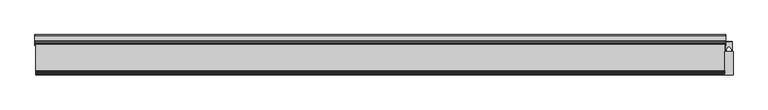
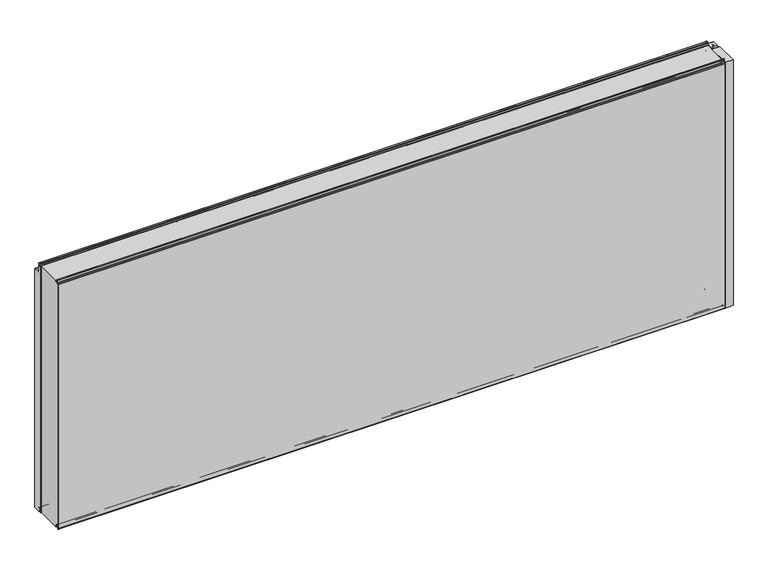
"""IFC4 building model written with IfcOpenShell, lengths in millimetres: plate geometry, Fronttop : Fronttop 150/1000."""

from ifc_helpers import new_model, si_unit, point, frame, frame_2d, origin, origin_with_axes, place, context, project, spatial, polyline, circle_curve, trimmed, segment, composite_curve, outline, extrude, source, transform, mapped, element, save
from ifc_brep_helpers import plane_surface, cylinder_surface, revolved_surface, advanced_brep


def plate_74780102(model_context):
    return source(origin(), model_context, "Body", "SolidModel", [
        advanced_brep(
        [(-1286.5, 124.0, 1008.0), (-1286.5, 121.0, 1008.0), (-1286.5, 121.0, 1004.0), (-1286.5, 117.0, 1000.0), (-1286.5, 115.0, 1000.0), (-1286.5, 115.0, 1001.0), (-1286.5, 117.0, 1001.0), (-1286.5, 120.0, 1004.0), (-1286.5, 120.0, 1008.0), (-1286.5, 125.0, 1008.0), (-1286.5, 125.0, 1000.0), (-1286.5, 124.0, 1000.0), (1286.5, 125.0, 1008.0), (1286.5, 120.0, 1008.0), (1286.5, 120.0, 1004.0), (1286.5, 117.0, 1001.0), (1286.5, 115.0, 1001.0), (1286.5, 115.0, 1000.0), (1286.5, 117.0, 1000.0), (1286.5, 121.0, 1004.0), (1286.5, 121.0, 1008.0), (1286.5, 124.0, 1008.0), (1286.5, 124.0, 1000.0), (1286.5, 125.0, 1000.0), (-1286.5, 117.0, 2.0), (1286.5, 117.0, 2.0), (1286.5, 115.0, 2.0), (-1286.5, 115.0, 2.0), (-1286.5, 119.0, 4.0), (1286.5, 119.0, 4.0), (-1286.5, 119.0, 8.0), (1286.5, 119.0, 8.0), (-1286.5, 126.0, 8.0), (1286.5, 126.0, 8.0), (-1286.5, 126.0, 0.0), (1286.5, 126.0, 0.0), (-1286.5, 129.0, -3.0), (1286.5, 129.0, -3.0), (-1286.5, 125.0, -3.0), (-1287.5, 125.0, -3.0), (-1287.5, 147.0, -3.0), (-1286.5, 147.0, -3.0), (1286.5, 147.0, -3.0), (1287.5, 147.0, -3.0), (1287.5, 125.0, -3.0), (1286.5, 125.0, -3.0), (-1286.5, 150.0, 0.0), (1286.5, 150.0, 0.0), (-1287.5, 150.0, 0.0), (-1287.5, 150.0, 969.0), (-1286.5, 150.0, 969.0), (1286.5, 150.0, 969.0), (1287.5, 150.0, 969.0), (1287.5, 150.0, 0.0), (-1286.5, 147.0, 972.0), (1286.5, 147.0, 972.0), (-1287.5, 147.0, 972.0), (-1287.5, 128.0, 972.0), (-1286.5, 128.0, 972.0), (1286.5, 128.0, 972.0), (1287.5, 128.0, 972.0), (1287.5, 147.0, 972.0), (-1286.5, 125.0, 975.0), (1286.5, 125.0, 975.0), (-1287.5, 125.0, 975.0), (-1287.5, 125.0, 1000.0), (1287.5, 125.0, 1000.0), (1287.5, 125.0, 975.0), (-1286.5, 124.0, 975.0), (1286.5, 124.0, 975.0), (-1286.5, 128.0, 971.0), (1286.5, 128.0, 971.0), (-1286.5, 147.0, 971.0), (1286.5, 147.0, 971.0), (-1286.5, 149.0, 969.0), (1286.5, 149.0, 969.0), (-1286.5, 149.0, 0.0), (1286.5, 149.0, 0.0), (-1286.5, 147.0, -2.0), (1286.5, 147.0, -2.0), (-1286.5, 129.0, -2.0), (1286.5, 129.0, -2.0), (-1286.5, 127.0, 0.0), (1286.5, 127.0, 0.0), (-1286.5, 127.0, 8.0), (1286.5, 127.0, 8.0), (-1286.5, 118.0, 8.0), (1286.5, 118.0, 8.0), (-1286.5, 118.0, 4.0), (1286.5, 118.0, 4.0), (-1286.5, 117.0, 3.0), (1286.5, 117.0, 3.0), (-1286.5, 115.0, 3.0), (1286.5, 115.0, 3.0), (1287.5, 110.0, 1000.0), (1287.5, 110.0, 0.0), (1287.5, 125.0, 0.0), (1286.5, 125.0, 0.0), (1286.5, 110.0, 0.0), (1286.5, 110.0, 1000.0), (-1287.5, 125.0, 0.0), (-1287.5, 110.0, 0.0), (-1287.5, 110.0, 1000.0), (-1286.5, 110.0, 1000.0), (-1286.5, 110.0, 0.0), (-1286.5, 125.0, 0.0)],
        [
            (0, 1, circle_curve(frame((-1286.5, 122.5, 1008.0), z_axis=(1.0, 0.0, 0.0), x_axis=(0.0, -1.0, 0.0)), 1.5)),
            (1, 2),
            (2, 3, circle_curve(frame((-1286.5, 117.0, 1004.0), z_axis=(-1.0, 0.0, 0.0), x_axis=(0.0, -1.0, 0.0)), 4.0)),
            (3, 4),
            (4, 5),
            (5, 6),
            (6, 7, circle_curve(frame((-1286.5, 117.0, 1004.0), z_axis=(1.0, 0.0, 0.0), x_axis=(0.0, -1.0, 0.0)), 3.0)),
            (7, 8),
            (8, 9, circle_curve(frame((-1286.5, 122.5, 1008.0), z_axis=(-1.0, 0.0, 0.0), x_axis=(0.0, -1.0, 0.0)), 2.5)),
            (9, 10),
            (10, 11),
            (11, 0),
            (12, 13, circle_curve(frame((1286.5, 122.5, 1008.0), z_axis=(1.0, 0.0, 0.0), x_axis=(0.0, -1.0, 0.0)), 2.5)),
            (13, 14),
            (14, 15, circle_curve(frame((1286.5, 117.0, 1004.0), z_axis=(-1.0, 0.0, 0.0), x_axis=(0.0, -1.0, 0.0)), 3.0)),
            (15, 16),
            (16, 17),
            (17, 18),
            (18, 19, circle_curve(frame((1286.5, 117.0, 1004.0), z_axis=(1.0, 0.0, 0.0), x_axis=(0.0, -1.0, 0.0)), 4.0)),
            (19, 20),
            (20, 21, circle_curve(frame((1286.5, 122.5, 1008.0), z_axis=(-1.0, 0.0, 0.0), x_axis=(0.0, -1.0, 0.0)), 1.5)),
            (21, 22),
            (22, 23),
            (23, 12),
            (24, 25),
            (25, 26),
            (26, 27),
            (27, 24),
            (24, 28, circle_curve(frame((-1286.5, 117.0, 4.0), z_axis=(1.0, 0.0, 0.0), x_axis=(0.0, -1.0, 0.0)), 2.0)),
            (28, 29),
            (29, 25, circle_curve(frame((1286.5, 117.0, 4.0), z_axis=(-1.0, 0.0, 0.0), x_axis=(0.0, -1.0, 0.0)), 2.0)),
            (28, 30),
            (30, 31),
            (31, 29),
            (30, 32, circle_curve(frame((-1286.5, 122.5, 8.0), z_axis=(-1.0, 0.0, 0.0), x_axis=(0.0, -1.0, 0.0)), 3.5)),
            (32, 33),
            (33, 31, circle_curve(frame((1286.5, 122.5, 8.0), z_axis=(1.0, 0.0, 0.0), x_axis=(0.0, -1.0, 0.0)), 3.5)),
            (32, 34),
            (34, 35),
            (35, 33),
            (34, 36, circle_curve(frame((-1286.5, 129.0, 0.0), z_axis=(1.0, 0.0, 0.0), x_axis=(0.0, -1.0, 0.0)), 3.0)),
            (36, 37),
            (37, 35, circle_curve(frame((1286.5, 129.0, 0.0), z_axis=(-1.0, 0.0, 0.0), x_axis=(0.0, -1.0, 0.0)), 3.0)),
            (36, 38),
            (38, 39),
            (39, 40),
            (40, 41),
            (41, 42),
            (42, 43),
            (43, 44),
            (44, 45),
            (45, 37),
            (41, 46, circle_curve(frame((-1286.5, 147.0, 0.0), z_axis=(1.0, 0.0, 0.0), x_axis=(0.0, -1.0, 0.0)), 3.0)),
            (46, 47),
            (47, 42, circle_curve(frame((1286.5, 147.0, 0.0), z_axis=(-1.0, 0.0, 0.0), x_axis=(0.0, -1.0, 0.0)), 3.0)),
            (46, 48),
            (48, 49),
            (49, 50),
            (50, 51),
            (51, 52),
            (52, 53),
            (53, 47),
            (50, 54, circle_curve(frame((-1286.5, 147.0, 969.0), z_axis=(1.0, 0.0, 0.0), x_axis=(0.0, -1.0, 0.0)), 3.0)),
            (54, 55),
            (55, 51, circle_curve(frame((1286.5, 147.0, 969.0), z_axis=(-1.0, 0.0, 0.0), x_axis=(0.0, -1.0, 0.0)), 3.0)),
            (54, 56),
            (56, 57),
            (57, 58),
            (58, 59),
            (59, 60),
            (60, 61),
            (61, 55),
            (58, 62, circle_curve(frame((-1286.5, 128.0, 975.0), z_axis=(-1.0, 0.0, 0.0), x_axis=(0.0, -1.0, 0.0)), 3.0)),
            (62, 63),
            (63, 59, circle_curve(frame((1286.5, 128.0, 975.0), z_axis=(1.0, 0.0, 0.0), x_axis=(0.0, -1.0, 0.0)), 3.0)),
            (62, 64),
            (64, 65),
            (65, 10),
            (9, 12),
            (23, 66),
            (66, 67),
            (67, 63),
            (8, 13),
            (7, 14),
            (6, 15),
            (5, 16),
            (4, 17),
            (4, 3),
            (3, 18),
            (18, 17),
            (2, 19),
            (1, 20),
            (0, 21),
            (11, 68),
            (68, 69),
            (69, 22),
            (68, 70, circle_curve(frame((-1286.5, 128.0, 975.0), z_axis=(1.0, 0.0, 0.0), x_axis=(0.0, -1.0, 0.0)), 4.0)),
            (70, 71),
            (71, 69, circle_curve(frame((1286.5, 128.0, 975.0), z_axis=(-1.0, 0.0, 0.0), x_axis=(0.0, -1.0, 0.0)), 4.0)),
            (70, 72),
            (72, 73),
            (73, 71),
            (72, 74, circle_curve(frame((-1286.5, 147.0, 969.0), z_axis=(-1.0, 0.0, 0.0), x_axis=(0.0, -1.0, 0.0)), 2.0)),
            (74, 75),
            (75, 73, circle_curve(frame((1286.5, 147.0, 969.0), z_axis=(1.0, 0.0, 0.0), x_axis=(0.0, -1.0, 0.0)), 2.0)),
            (74, 76),
            (76, 77),
            (77, 75),
            (76, 78, circle_curve(frame((-1286.5, 147.0, 0.0), z_axis=(-1.0, 0.0, 0.0), x_axis=(0.0, -1.0, 0.0)), 2.0)),
            (78, 79),
            (79, 77, circle_curve(frame((1286.5, 147.0, 0.0), z_axis=(1.0, 0.0, 0.0), x_axis=(0.0, -1.0, 0.0)), 2.0)),
            (78, 80),
            (80, 81),
            (81, 79),
            (80, 82, circle_curve(frame((-1286.5, 129.0, 0.0), z_axis=(-1.0, 0.0, 0.0), x_axis=(0.0, -1.0, 0.0)), 2.0)),
            (82, 83),
            (83, 81, circle_curve(frame((1286.5, 129.0, 0.0), z_axis=(1.0, 0.0, 0.0), x_axis=(0.0, -1.0, 0.0)), 2.0)),
            (82, 84),
            (84, 85),
            (85, 83),
            (84, 86, circle_curve(frame((-1286.5, 122.5, 8.0), z_axis=(1.0, 0.0, 0.0), x_axis=(0.0, -1.0, 0.0)), 4.5)),
            (86, 87),
            (87, 85, circle_curve(frame((1286.5, 122.5, 8.0), z_axis=(-1.0, 0.0, 0.0), x_axis=(0.0, -1.0, 0.0)), 4.5)),
            (86, 88),
            (88, 89),
            (89, 87),
            (88, 90, circle_curve(frame((-1286.5, 117.0, 4.0), z_axis=(-1.0, 0.0, 0.0), x_axis=(0.0, -1.0, 0.0)), 1.0)),
            (90, 91),
            (91, 89, circle_curve(frame((1286.5, 117.0, 4.0), z_axis=(1.0, 0.0, 0.0), x_axis=(0.0, -1.0, 0.0)), 1.0)),
            (90, 92),
            (92, 93),
            (93, 91),
            (26, 93),
            (92, 27),
            (66, 94),
            (94, 95),
            (95, 96),
            (96, 44),
            (43, 53, circle_curve(frame((1287.5, 147.0, 0.0), z_axis=(1.0, 0.0, 0.0), x_axis=(0.0, 1.0, 0.0)), 3.0)),
            (52, 61, circle_curve(frame((1287.5, 147.0, 969.0), z_axis=(1.0, 0.0, 0.0), x_axis=(0.0, 1.0, 0.0)), 3.0)),
            (60, 67, circle_curve(frame((1287.5, 128.0, 975.0), z_axis=(-1.0, 0.0, 0.0), x_axis=(0.0, 1.0, 0.0)), 3.0)),
            (45, 97),
            (97, 98),
            (98, 99),
            (99, 17),
            (18, 22),
            (99, 94),
            (98, 95),
            (97, 96),
            (64, 57, circle_curve(frame((-1287.5, 128.0, 975.0), z_axis=(1.0, 0.0, 0.0), x_axis=(0.0, 1.0, 0.0)), 3.0)),
            (56, 49, circle_curve(frame((-1287.5, 147.0, 969.0), z_axis=(-1.0, 0.0, 0.0), x_axis=(0.0, 1.0, 0.0)), 3.0)),
            (48, 40, circle_curve(frame((-1287.5, 147.0, 0.0), z_axis=(-1.0, 0.0, 0.0), x_axis=(0.0, 1.0, 0.0)), 3.0)),
            (39, 100),
            (100, 101),
            (101, 102),
            (102, 65),
            (103, 104),
            (104, 105),
            (105, 38),
            (11, 3),
            (4, 103),
            (102, 103),
            (101, 104),
            (100, 105),
        ],
        [
            plane_surface(frame((-1286.5, 0.0, 0.0), z_axis=(-1.0, 0.0, 0.0), x_axis=(0.0, 0.0, 1.0))),
            plane_surface(frame((1286.5, 0.0, 0.0), z_axis=(1.0, 0.0, 0.0), x_axis=(0.0, 0.0, 1.0))),
            plane_surface(frame((-1286.5, 117.0, 2.0), z_axis=(0.0, 0.0, -1.0), x_axis=(1.0, 0.0, 0.0))),
            cylinder_surface(frame((-1286.5, 117.0, 4.0), z_axis=(-1.0, 0.0, 0.0), x_axis=(0.0, -1.0, 0.0)), 2.0),
            plane_surface(frame((-1286.5, 119.0, 8.0), z_axis=(0.0, 1.0, 0.0), x_axis=(1.0, 0.0, 0.0))),
            revolved_surface(polyline([(1286.5, 119.0, 8.0), (-1286.5, 119.0, 8.0)]), (-1286.5, 122.5, 8.0), (1.0, 0.0, 0.0)),
            plane_surface(frame((-1286.5, 126.0, 0.0), z_axis=(0.0, -1.0, 0.0), x_axis=(1.0, 0.0, 0.0))),
            cylinder_surface(frame((-1286.5, 129.0, 0.0), z_axis=(-1.0, 0.0, 0.0), x_axis=(0.0, -1.0, 0.0)), 3.0),
            plane_surface(frame((-1286.5, 147.0, -3.0), z_axis=(0.0, 0.0, -1.0), x_axis=(1.0, 0.0, 0.0))),
            cylinder_surface(frame((-1286.5, 147.0, 0.0), z_axis=(-1.0, 0.0, 0.0), x_axis=(0.0, -1.0, 0.0)), 3.0),
            plane_surface(frame((-1286.5, 150.0, 969.0), z_axis=(0.0, 1.0, 0.0), x_axis=(1.0, 0.0, 0.0))),
            cylinder_surface(frame((-1286.5, 147.0, 969.0), z_axis=(-1.0, 0.0, 0.0), x_axis=(0.0, -1.0, 0.0)), 3.0),
            plane_surface(frame((-1286.5, 128.0, 972.0), z_axis=(0.0, 0.0, 1.0), x_axis=(1.0, 0.0, 0.0))),
            revolved_surface(polyline([(1286.5, 125.0, 975.0), (-1286.5, 125.0, 975.0)]), (-1286.5, 128.0, 975.0), (1.0, 0.0, 0.0)),
            plane_surface(frame((-1286.5, 125.0, 1008.0), z_axis=(0.0, 1.0, 0.0), x_axis=(1.0, 0.0, 0.0))),
            cylinder_surface(frame((-1286.5, 122.5, 1008.0), z_axis=(-1.0, 0.0, 0.0), x_axis=(0.0, -1.0, 0.0)), 2.5),
            plane_surface(frame((-1286.5, 120.0, 1004.0), z_axis=(0.0, -1.0, 0.0), x_axis=(1.0, 0.0, 0.0))),
            revolved_surface(polyline([(1286.5, 114.0, 1004.0), (-1286.5, 114.0, 1004.0)]), (-1286.5, 117.0, 1004.0), (1.0, 0.0, 0.0)),
            plane_surface(frame((-1286.5, 115.0, 1001.0), z_axis=(0.0, 0.0, 1.0), x_axis=(1.0, 0.0, 0.0))),
            plane_surface(frame((-1286.5, 115.0, 1000.0), z_axis=(0.0, -1.0, 0.0), x_axis=(1.0, 0.0, 0.0))),
            plane_surface(frame((-1286.5, 117.0, 1000.0), z_axis=(0.0, 0.0, -1.0), x_axis=(1.0, 0.0, 0.0))),
            cylinder_surface(frame((-1286.5, 117.0, 1004.0), z_axis=(-1.0, 0.0, 0.0), x_axis=(0.0, -1.0, 0.0)), 4.0),
            plane_surface(frame((-1286.5, 121.0, 1008.0), z_axis=(0.0, 1.0, 0.0), x_axis=(1.0, 0.0, 0.0))),
            revolved_surface(polyline([(1286.5, 121.0, 1008.0), (-1286.5, 121.0, 1008.0)]), (-1286.5, 122.5, 1008.0), (1.0, 0.0, 0.0)),
            plane_surface(frame((-1286.5, 124.0, 975.0), z_axis=(0.0, -1.0, 0.0), x_axis=(1.0, 0.0, 0.0))),
            cylinder_surface(frame((-1286.5, 128.0, 975.0), z_axis=(-1.0, 0.0, 0.0), x_axis=(0.0, -1.0, 0.0)), 4.0),
            plane_surface(frame((-1286.5, 147.0, 971.0), z_axis=(0.0, 0.0, -1.0), x_axis=(1.0, 0.0, 0.0))),
            revolved_surface(polyline([(1286.5, 145.0, 969.0), (-1286.5, 145.0, 969.0)]), (-1286.5, 147.0, 969.0), (1.0, 0.0, 0.0)),
            plane_surface(frame((-1286.5, 149.0, 0.0), z_axis=(0.0, -1.0, 0.0), x_axis=(1.0, 0.0, 0.0))),
            revolved_surface(polyline([(1286.5, 145.0, 0.0), (-1286.5, 145.0, 0.0)]), (-1286.5, 147.0, 0.0), (1.0, 0.0, 0.0)),
            plane_surface(frame((-1286.5, 129.0, -2.0), z_axis=(0.0, 0.0, 1.0), x_axis=(1.0, 0.0, 0.0))),
            revolved_surface(polyline([(1286.5, 127.0, 0.0), (-1286.5, 127.0, 0.0)]), (-1286.5, 129.0, 0.0), (1.0, 0.0, 0.0)),
            plane_surface(frame((-1286.5, 127.0, 8.0), z_axis=(0.0, 1.0, 0.0), x_axis=(1.0, 0.0, 0.0))),
            cylinder_surface(frame((-1286.5, 122.5, 8.0), z_axis=(-1.0, 0.0, 0.0), x_axis=(0.0, -1.0, 0.0)), 4.5),
            plane_surface(frame((-1286.5, 118.0, 4.0), z_axis=(0.0, -1.0, 0.0), x_axis=(1.0, 0.0, 0.0))),
            revolved_surface(polyline([(1286.5, 116.0, 4.0), (-1286.5, 116.0, 4.0)]), (-1286.5, 117.0, 4.0), (1.0, 0.0, 0.0)),
            plane_surface(frame((-1286.5, 115.0, 3.0), z_axis=(0.0, 0.0, 1.0), x_axis=(1.0, 0.0, 0.0))),
            plane_surface(frame((-1286.5, 115.0, 2.0), z_axis=(0.0, -1.0, 0.0), x_axis=(1.0, 0.0, 0.0))),
            plane_surface(frame((1287.5, 125.0, 1000.0), z_axis=(1.0, 0.0, 0.0), x_axis=(0.0, -1.0, 0.0))),
            plane_surface(frame((1286.5, 125.0, 1000.0), z_axis=(-1.0, 0.0, 0.0), x_axis=(0.0, 1.0, 0.0))),
            plane_surface(frame((1287.5, 125.0, 1000.0), z_axis=(0.0, 0.0, 1.0), x_axis=(-1.0, 0.0, 0.0))),
            plane_surface(frame((1287.5, 110.0, 1000.0), z_axis=(0.0, -1.0, 0.0), x_axis=(-1.0, 0.0, 0.0))),
            plane_surface(frame((1287.5, 110.0, 0.0), z_axis=(0.0, 0.0, -1.0), x_axis=(-1.0, 0.0, 0.0))),
            cylinder_surface(frame((1286.5, 147.0, 0.0), z_axis=(1.0, 0.0, 0.0), x_axis=(0.0, 1.0, 0.0)), 3.0),
            cylinder_surface(frame((1286.5, 147.0, 969.0), z_axis=(1.0, 0.0, 0.0), x_axis=(0.0, 1.0, 0.0)), 3.0),
            revolved_surface(polyline([(1286.5, 131.0, 975.0), (1287.5, 131.0, 975.0)]), (1286.5, 128.0, 975.0), (-1.0, 0.0, 0.0)),
            plane_surface(frame((-1287.5, 125.0, 1000.0), z_axis=(-1.0, 0.0, 0.0), x_axis=(0.0, 1.0, 0.0))),
            plane_surface(frame((-1286.5, 125.0, 1000.0), z_axis=(1.0, 0.0, 0.0), x_axis=(0.0, -1.0, 0.0))),
            plane_surface(frame((-1286.5, 125.0, 1000.0), z_axis=(0.0, 0.0, 1.0), x_axis=(-1.0, 0.0, 0.0))),
            plane_surface(frame((-1286.5, 110.0, 1000.0), z_axis=(0.0, -1.0, 0.0), x_axis=(-1.0, 0.0, 0.0))),
            plane_surface(frame((-1286.5, 110.0, 0.0), z_axis=(0.0, 0.0, -1.0), x_axis=(-1.0, 0.0, 0.0))),
            cylinder_surface(frame((-1287.5, 147.0, 0.0), z_axis=(1.0, 0.0, 0.0), x_axis=(0.0, 1.0, 0.0)), 3.0),
            cylinder_surface(frame((-1287.5, 147.0, 969.0), z_axis=(1.0, 0.0, 0.0), x_axis=(0.0, 1.0, 0.0)), 3.0),
            revolved_surface(polyline([(-1287.5, 131.0, 975.0), (-1286.5, 131.0, 975.0)]), (-1287.5, 128.0, 975.0), (-1.0, 0.0, 0.0)),
            plane_surface(frame((1287.5, 125.0, 0.0), z_axis=(0.0, -1.0, 0.0), x_axis=(-1.0, 0.0, 0.0))),
            plane_surface(frame((-1286.5, 125.0, 0.0), z_axis=(0.0, -1.0, 0.0), x_axis=(-1.0, 0.0, 0.0))),
        ],
        [
            (0, [[1, 2, 3, 4, 5, 6, 7, 8, 9, 10, 11, 12]]),
            (1, [[13, 14, 15, 16, 17, 18, 19, 20, 21, 22, 23, 24]]),
            (2, [[25, 26, 27, 28]]),
            (3, [[-25, 29, 30, 31]]),
            (4, [[-30, 32, 33, 34]]),
            (5, [[-33, 35, 36, 37]]),
            (6, [[-36, 38, 39, 40]]),
            (7, [[-39, 41, 42, 43]]),
            (8, [[-42, 44, 45, 46, 47, 48, 49, 50, 51, 52]]),
            (9, [[-48, 53, 54, 55]]),
            (10, [[-54, 56, 57, 58, 59, 60, 61, 62]]),
            (11, [[-59, 63, 64, 65]]),
            (12, [[-64, 66, 67, 68, 69, 70, 71, 72]]),
            (13, [[-69, 73, 74, 75]]),
            (14, [[-74, 76, 77, 78, -10, 79, -24, 80, 81, 82]]),
            (15, [[-9, 83, -13, -79]]),
            (16, [[-8, 84, -14, -83]]),
            (17, [[-7, 85, -15, -84]]),
            (18, [[-6, 86, -16, -85]]),
            (19, [[-5, 87, -17, -86]]),
            (20, [[-87, 88, 89, 90]]),
            (21, [[-3, 91, -19, -89]]),
            (22, [[-2, 92, -20, -91]]),
            (23, [[-1, 93, -21, -92]]),
            (24, [[-93, -12, 94, 95, 96, -22]]),
            (25, [[-95, 97, 98, 99]]),
            (26, [[-98, 100, 101, 102]]),
            (27, [[-101, 103, 104, 105]]),
            (28, [[-104, 106, 107, 108]]),
            (29, [[-107, 109, 110, 111]]),
            (30, [[-110, 112, 113, 114]]),
            (31, [[-113, 115, 116, 117]]),
            (32, [[-116, 118, 119, 120]]),
            (33, [[-119, 121, 122, 123]]),
            (34, [[-122, 124, 125, 126]]),
            (35, [[-125, 127, 128, 129]]),
            (36, [[-128, 130, 131, 132]]),
            (37, [[-27, 133, -131, 134]]),
            (38, [[135, 136, 137, 138, -50, 139, -61, 140, -71, 141, -81]]),
            (39, [[142, 143, 144, 145, -90, 146, -96, -99, -102, -105, -108, -111, -114, -117, -120, -123, -126, -129, -132, -133, -26, -31, -34, -37, -40, -43, -52]]),
            (40, [[-135, -80, -23, -146, -18, -145, 147]]),
            (41, [[-136, -147, -144, 148]]),
            (42, [[-137, -148, -143, 149]]),
            (43, [[-139, -49, -55, -62]]),
            (44, [[-140, -60, -65, -72]]),
            (45, [[-141, -70, -75, -82]]),
            (46, [[-77, 150, -67, 151, -57, 152, -46, 153, 154, 155, 156]]),
            (47, [[157, 158, 159, -44, -41, -38, -35, -32, -29, -28, -134, -130, -127, -124, -121, -118, -115, -112, -109, -106, -103, -100, -97, -94, 160, -88, 161]]),
            (48, [[-156, 162, -161, -4, -160, -11, -78]]),
            (49, [[-155, 163, -157, -162]]),
            (50, [[-154, 164, -158, -163]]),
            (51, [[-152, -56, -53, -47]]),
            (52, [[-151, -66, -63, -58]]),
            (53, [[-150, -76, -73, -68]]),
            (54, [[-138, -149, -142, -51]]),
            (55, [[-153, -45, -159, -164]]),
        ],
    ),
        extrude(outline(composite_curve([segment(polyline([(1287.4998455, 123.5), (1299.25, 123.5), (1299.25, 107.5), (1300.75, 107.5), (1300.75, 123.5), (1312.5001545, 123.5), (1312.5001545, 90.0), (1309.75, 90.0), (1309.75, 92.5)]), True, "CONTINUOUS"), segment(trimmed(circle_curve(frame_2d((1291.9661979, 89.3183984)), 18.0661619), [point((1309.75, 92.5))], [point((1300.0, 105.5))], True, "CARTESIAN"), True, "CONTINUOUS"), segment(trimmed(circle_curve(frame_2d((1308.0338021, 89.3183984)), 18.0661619), [point((1300.0, 105.5))], [point((1290.25, 92.5))], True, "CARTESIAN"), True, "CONTINUOUS"), segment(polyline([(1290.25, 92.5), (1290.25, 90.0), (1287.4998455, 90.0), (1287.4998455, 123.5)]), True, "CONTINUOUS")], self_intersect=False)), origin_with_axes(), (0.0, 0.0, 1.0), 1000.0),
        extrude(outline(polyline([(1315.5, 0.0), (1284.5, 0.0), (1284.5, 88.0), (1315.5, 88.0), (1315.5, 0.0)])), origin_with_axes(), (0.0, 0.0, 1.0), 1000.0),
        extrude(outline(polyline([(1288.4948846, 125.0), (1311.5051154, 125.0), (1311.5051154, 123.5), (1300.6502496, 123.5), (1300.6502496, 109.0759655), (1299.35, 109.0759655), (1299.35, 123.5), (1288.4948846, 123.5), (1288.4948846, 125.0)])), origin_with_axes(), (0.0, 0.0, 1.0), 1000.0),
        advanced_brep(
        [(-1284.5, 13.0, 1001.0), (-1284.5, 15.0, 1001.0), (-1284.5, 15.0, 1000.0), (-1284.5, 13.0, 1000.0), (-1284.5, 9.0, 1004.0), (-1284.5, 9.0, 1008.0), (-1284.5, 6.0, 1008.0), (-1284.5, 6.0, 999.5), (-1284.5, 2.1134897, 996.0214069), (-1284.5, 1.0, 995.0), (-1284.5, 1.0, -0.5), (-1284.5, 3.0, -0.5), (-1284.5, 3.0, 8.0), (-1284.5, 12.0, 8.0), (-1284.5, 12.0, 4.0), (-1284.5, 13.0, 3.0), (-1284.5, 15.0, 3.0), (-1284.5, 15.0, 2.0), (-1284.5, 13.0, 2.0), (-1284.5, 11.0, 4.0), (-1284.5, 11.0, 8.0), (-1284.5, 4.0, 8.0), (-1284.5, 4.0, -0.5), (-1284.5, 0.0, -0.5), (-1284.5, 0.0, 995.0), (-1284.5, 2.220863, 996.9877675), (-1284.5, 5.0, 999.5), (-1284.5, 5.0, 1008.0), (-1284.5, 10.0, 1008.0), (-1284.5, 10.0, 1004.0), (1284.5, 13.0, 1001.0), (1284.5, 10.0, 1004.0), (1284.5, 10.0, 1008.0), (1284.5, 5.0, 1008.0), (1284.5, 5.0, 999.5), (1284.5, 2.2239212, 997.0152907), (1284.5, 0.0, 995.0), (1284.5, 0.0, -0.5), (1284.5, 4.0, -0.5), (1284.5, 4.0, 8.0), (1284.5, 11.0, 8.0), (1284.5, 11.0, 4.0), (1284.5, 13.0, 2.0), (1284.5, 15.0, 2.0), (1284.5, 15.0, 3.0), (1284.5, 13.0, 3.0), (1284.5, 12.0, 4.0), (1284.5, 12.0, 8.0), (1284.5, 3.0, 8.0), (1284.5, 3.0, -0.5), (1284.5, 1.0, -0.5), (1284.5, 1.0, 995.0), (1284.5, 2.1104315, 995.9938837), (1284.5, 6.0, 999.5), (1284.5, 6.0, 1008.0), (1284.5, 9.0, 1008.0), (1284.5, 9.0, 1004.0), (1284.5, 13.0, 1000.0), (1284.5, 15.0, 1000.0), (1284.5, 15.0, 1001.0)],
        [
            (0, 1),
            (1, 2),
            (2, 3),
            (3, 4, circle_curve(frame((-1284.5, 13.0, 1004.0), z_axis=(-1.0, 0.0, 0.0), x_axis=(0.0, -1.0, 0.0)), 4.0)),
            (4, 5),
            (5, 6, circle_curve(frame((-1284.5, 7.5, 1008.0), z_axis=(1.0, 0.0, 0.0), x_axis=(0.0, -1.0, 0.0)), 1.5)),
            (6, 7),
            (7, 8, circle_curve(frame((-1284.5, 2.5, 999.5), z_axis=(-1.0, 0.0, 0.0), x_axis=(0.0, -1.0, 0.0)), 3.5)),
            (8, 9, circle_curve(frame((-1284.5, 2.0, 995.0), z_axis=(1.0, 0.0, 0.0), x_axis=(0.0, -1.0, 0.0)), 1.0)),
            (9, 10),
            (10, 11, circle_curve(frame((-1284.5, 2.0, -0.5), z_axis=(1.0, 0.0, 0.0), x_axis=(0.0, -1.0, 0.0)), 1.0)),
            (11, 12),
            (12, 13, circle_curve(frame((-1284.5, 7.5, 8.0), z_axis=(-1.0, 0.0, 0.0), x_axis=(0.0, -1.0, 0.0)), 4.5)),
            (13, 14),
            (14, 15, circle_curve(frame((-1284.5, 13.0, 4.0), z_axis=(1.0, 0.0, 0.0), x_axis=(0.0, -1.0, 0.0)), 1.0)),
            (15, 16),
            (16, 17),
            (17, 18),
            (18, 19, circle_curve(frame((-1284.5, 13.0, 4.0), z_axis=(-1.0, 0.0, 0.0), x_axis=(0.0, -1.0, 0.0)), 2.0)),
            (19, 20),
            (20, 21, circle_curve(frame((-1284.5, 7.5, 8.0), z_axis=(1.0, 0.0, 0.0), x_axis=(0.0, -1.0, 0.0)), 3.5)),
            (21, 22),
            (22, 23, circle_curve(frame((-1284.5, 2.0, -0.5), z_axis=(-1.0, 0.0, 0.0), x_axis=(0.0, -1.0, 0.0)), 2.0)),
            (23, 24),
            (24, 25, circle_curve(frame((-1284.5, 2.0, 995.0), z_axis=(-1.0, 0.0, 0.0), x_axis=(0.0, -1.0, 0.0)), 2.0)),
            (25, 26, circle_curve(frame((-1284.5, 2.5, 999.5), z_axis=(1.0, 0.0, 0.0), x_axis=(0.0, -1.0, 0.0)), 2.5)),
            (26, 27),
            (27, 28, circle_curve(frame((-1284.5, 7.5, 1008.0), z_axis=(-1.0, 0.0, 0.0), x_axis=(0.0, -1.0, 0.0)), 2.5)),
            (28, 29),
            (29, 0, circle_curve(frame((-1284.5, 13.0, 1004.0), z_axis=(1.0, 0.0, 0.0), x_axis=(0.0, -1.0, 0.0)), 3.0)),
            (30, 31, circle_curve(frame((1284.5, 13.0, 1004.0), z_axis=(-1.0, 0.0, 0.0), x_axis=(0.0, -1.0, 0.0)), 3.0)),
            (31, 32),
            (32, 33, circle_curve(frame((1284.5, 7.5, 1008.0), z_axis=(1.0, 0.0, 0.0), x_axis=(0.0, -1.0, 0.0)), 2.5)),
            (33, 34),
            (34, 35, circle_curve(frame((1284.5, 2.5, 999.5), z_axis=(-1.0, 0.0, 0.0), x_axis=(0.0, -1.0, 0.0)), 2.5)),
            (35, 36, circle_curve(frame((1284.5, 2.0, 995.0), z_axis=(1.0, 0.0, 0.0), x_axis=(0.0, -1.0, 0.0)), 2.0)),
            (36, 37),
            (37, 38, circle_curve(frame((1284.5, 2.0, -0.5), z_axis=(1.0, 0.0, 0.0), x_axis=(0.0, -1.0, 0.0)), 2.0)),
            (38, 39),
            (39, 40, circle_curve(frame((1284.5, 7.5, 8.0), z_axis=(-1.0, 0.0, 0.0), x_axis=(0.0, -1.0, 0.0)), 3.5)),
            (40, 41),
            (41, 42, circle_curve(frame((1284.5, 13.0, 4.0), z_axis=(1.0, 0.0, 0.0), x_axis=(0.0, -1.0, 0.0)), 2.0)),
            (42, 43),
            (43, 44),
            (44, 45),
            (45, 46, circle_curve(frame((1284.5, 13.0, 4.0), z_axis=(-1.0, 0.0, 0.0), x_axis=(0.0, -1.0, 0.0)), 1.0)),
            (46, 47),
            (47, 48, circle_curve(frame((1284.5, 7.5, 8.0), z_axis=(1.0, 0.0, 0.0), x_axis=(0.0, -1.0, 0.0)), 4.5)),
            (48, 49),
            (49, 50, circle_curve(frame((1284.5, 2.0, -0.5), z_axis=(-1.0, 0.0, 0.0), x_axis=(0.0, -1.0, 0.0)), 1.0)),
            (50, 51),
            (51, 52, circle_curve(frame((1284.5, 2.0, 995.0), z_axis=(-1.0, 0.0, 0.0), x_axis=(0.0, -1.0, 0.0)), 1.0)),
            (52, 53, circle_curve(frame((1284.5, 2.5, 999.5), z_axis=(1.0, 0.0, 0.0), x_axis=(0.0, -1.0, 0.0)), 3.5)),
            (53, 54),
            (54, 55, circle_curve(frame((1284.5, 7.5, 1008.0), z_axis=(-1.0, 0.0, 0.0), x_axis=(0.0, -1.0, 0.0)), 1.5)),
            (55, 56),
            (56, 57, circle_curve(frame((1284.5, 13.0, 1004.0), z_axis=(1.0, 0.0, 0.0), x_axis=(0.0, -1.0, 0.0)), 4.0)),
            (57, 58),
            (58, 59),
            (59, 30),
            (0, 30),
            (59, 1),
            (58, 2),
            (57, 3),
            (56, 4),
            (55, 5),
            (54, 6),
            (53, 7),
            (52, 8),
            (51, 9),
            (50, 10),
            (49, 11),
            (48, 12),
            (47, 13),
            (46, 14),
            (45, 15),
            (44, 16),
            (43, 17),
            (42, 18),
            (41, 19),
            (40, 20),
            (39, 21),
            (38, 22),
            (37, 23),
            (36, 24),
            (35, 25),
            (34, 26),
            (33, 27),
            (32, 28),
            (31, 29),
        ],
        [
            plane_surface(frame((-1284.5, 0.0, 0.0), z_axis=(-1.0, 0.0, 0.0), x_axis=(0.0, 0.0, 1.0))),
            plane_surface(frame((1284.5, 0.0, 0.0), z_axis=(1.0, 0.0, 0.0), x_axis=(0.0, 0.0, 1.0))),
            plane_surface(frame((-1284.5, 13.0, 1001.0), z_axis=(0.0, 0.0, 1.0), x_axis=(1.0, 0.0, 0.0))),
            plane_surface(frame((-1284.5, 15.0, 1001.0), z_axis=(0.0, 1.0, 0.0), x_axis=(1.0, 0.0, 0.0))),
            plane_surface(frame((-1284.5, 15.0, 1000.0), z_axis=(0.0, 0.0, -1.0), x_axis=(1.0, 0.0, 0.0))),
            cylinder_surface(frame((-1284.5, 13.0, 1004.0), z_axis=(-1.0, 0.0, 0.0), x_axis=(0.0, -1.0, 0.0)), 4.0),
            plane_surface(frame((-1284.5, 9.0, 1004.0), z_axis=(0.0, -1.0, 0.0), x_axis=(1.0, 0.0, 0.0))),
            revolved_surface(polyline([(1284.5, 6.0, 1008.0), (-1284.5, 6.0, 1008.0)]), (-1284.5, 7.5, 1008.0), (1.0, 0.0, 0.0)),
            plane_surface(frame((-1284.5, 6.0, 1008.0), z_axis=(0.0, 1.0, 0.0), x_axis=(1.0, 0.0, 0.0))),
            cylinder_surface(frame((-1284.5, 2.5, 999.5), z_axis=(-1.0, 0.0, 0.0), x_axis=(0.0, -1.0, 0.0)), 3.5),
            revolved_surface(polyline([(1284.5, 1.0, 995.0), (-1284.5, 1.0, 995.0)]), (-1284.5, 2.0, 995.0), (1.0, 0.0, 0.0)),
            plane_surface(frame((-1284.5, 1.0, 995.0), z_axis=(0.0, 1.0, 0.0), x_axis=(1.0, 0.0, 0.0))),
            revolved_surface(polyline([(1284.5, 1.0, -0.5), (-1284.5, 1.0, -0.5)]), (-1284.5, 2.0, -0.5), (1.0, 0.0, 0.0)),
            plane_surface(frame((-1284.5, 3.0, -0.5), z_axis=(0.0, -1.0, 0.0), x_axis=(1.0, 0.0, 0.0))),
            cylinder_surface(frame((-1284.5, 7.5, 8.0), z_axis=(-1.0, 0.0, 0.0), x_axis=(0.0, -1.0, 0.0)), 4.5),
            plane_surface(frame((-1284.5, 12.0, 8.0), z_axis=(0.0, 1.0, 0.0), x_axis=(1.0, 0.0, 0.0))),
            revolved_surface(polyline([(1284.5, 12.0, 4.0), (-1284.5, 12.0, 4.0)]), (-1284.5, 13.0, 4.0), (1.0, 0.0, 0.0)),
            plane_surface(frame((-1284.5, 13.0, 3.0), z_axis=(0.0, 0.0, 1.0), x_axis=(1.0, 0.0, 0.0))),
            plane_surface(frame((-1284.5, 15.0, 3.0), z_axis=(0.0, 1.0, 0.0), x_axis=(1.0, 0.0, 0.0))),
            plane_surface(frame((-1284.5, 15.0, 2.0), z_axis=(0.0, 0.0, -1.0), x_axis=(1.0, 0.0, 0.0))),
            cylinder_surface(frame((-1284.5, 13.0, 4.0), z_axis=(-1.0, 0.0, 0.0), x_axis=(0.0, -1.0, 0.0)), 2.0),
            plane_surface(frame((-1284.5, 11.0, 4.0), z_axis=(0.0, -1.0, 0.0), x_axis=(1.0, 0.0, 0.0))),
            revolved_surface(polyline([(1284.5, 4.0, 8.0), (-1284.5, 4.0, 8.0)]), (-1284.5, 7.5, 8.0), (1.0, 0.0, 0.0)),
            plane_surface(frame((-1284.5, 4.0, 8.0), z_axis=(0.0, 1.0, 0.0), x_axis=(1.0, 0.0, 0.0))),
            cylinder_surface(frame((-1284.5, 2.0, -0.5), z_axis=(-1.0, 0.0, 0.0), x_axis=(0.0, -1.0, 0.0)), 2.0),
            plane_surface(frame((-1284.5, 0.0, -0.5), z_axis=(0.0, -1.0, 0.0), x_axis=(1.0, 0.0, 0.0))),
            cylinder_surface(frame((-1284.5, 2.0, 995.0), z_axis=(-1.0, 0.0, 0.0), x_axis=(0.0, -1.0, 0.0)), 2.0),
            revolved_surface(polyline([(1284.5, 0.0, 999.5), (-1284.5, 0.0, 999.5)]), (-1284.5, 2.5, 999.5), (1.0, 0.0, 0.0)),
            plane_surface(frame((-1284.5, 5.0, 999.5), z_axis=(0.0, -1.0, 0.0), x_axis=(1.0, 0.0, 0.0))),
            cylinder_surface(frame((-1284.5, 7.5, 1008.0), z_axis=(-1.0, 0.0, 0.0), x_axis=(0.0, -1.0, 0.0)), 2.5),
            plane_surface(frame((-1284.5, 10.0, 1008.0), z_axis=(0.0, 1.0, 0.0), x_axis=(1.0, 0.0, 0.0))),
            revolved_surface(polyline([(1284.5, 10.0, 1004.0), (-1284.5, 10.0, 1004.0)]), (-1284.5, 13.0, 1004.0), (1.0, 0.0, 0.0)),
        ],
        [
            (0, [[1, 2, 3, 4, 5, 6, 7, 8, 9, 10, 11, 12, 13, 14, 15, 16, 17, 18, 19, 20, 21, 22, 23, 24, 25, 26, 27, 28, 29, 30]]),
            (1, [[31, 32, 33, 34, 35, 36, 37, 38, 39, 40, 41, 42, 43, 44, 45, 46, 47, 48, 49, 50, 51, 52, 53, 54, 55, 56, 57, 58, 59, 60]]),
            (2, [[-1, 61, -60, 62]]),
            (3, [[-2, -62, -59, 63]]),
            (4, [[-3, -63, -58, 64]]),
            (5, [[-4, -64, -57, 65]]),
            (6, [[-5, -65, -56, 66]]),
            (7, [[-6, -66, -55, 67]]),
            (8, [[-7, -67, -54, 68]]),
            (9, [[-8, -68, -53, 69]]),
            (10, [[-9, -69, -52, 70]]),
            (11, [[-10, -70, -51, 71]]),
            (12, [[-11, -71, -50, 72]]),
            (13, [[-12, -72, -49, 73]]),
            (14, [[-13, -73, -48, 74]]),
            (15, [[-14, -74, -47, 75]]),
            (16, [[-15, -75, -46, 76]]),
            (17, [[-16, -76, -45, 77]]),
            (18, [[-17, -77, -44, 78]]),
            (19, [[-18, -78, -43, 79]]),
            (20, [[-19, -79, -42, 80]]),
            (21, [[-20, -80, -41, 81]]),
            (22, [[-21, -81, -40, 82]]),
            (23, [[-22, -82, -39, 83]]),
            (24, [[-23, -83, -38, 84]]),
            (25, [[-24, -84, -37, 85]]),
            (26, [[-25, -85, -36, 86]]),
            (27, [[-26, -86, -35, 87]]),
            (28, [[-27, -87, -34, 88]]),
            (29, [[-28, -88, -33, 89]]),
            (30, [[-29, -89, -32, 90]]),
            (31, [[-30, -90, -31, -61]]),
        ],
    ),
        extrude(outline(composite_curve([segment(polyline([(15.0, 3.0), (13.0, 3.0)]), True, "CONTINUOUS"), segment(trimmed(circle_curve(frame_2d((13.0, 4.0)), 1.0), [point((13.0, 3.0))], [point((12.0, 4.0))], False, "CARTESIAN"), True, "CONTINUOUS"), segment(polyline([(12.0, 4.0), (12.0, 8.0)]), True, "CONTINUOUS"), segment(trimmed(circle_curve(frame_2d((7.5, 8.0)), 4.5), [point((12.0, 8.0))], [point((3.0, 8.0))], True, "CARTESIAN"), True, "CONTINUOUS"), segment(polyline([(3.0, 8.0), (3.0, -0.5)]), True, "CONTINUOUS"), segment(trimmed(circle_curve(frame_2d((2.0, -0.5)), 1.0), [point((3.0, -0.5))], [point((1.0, -0.5))], False, "CARTESIAN"), True, "CONTINUOUS"), segment(polyline([(1.0, -0.5), (1.0, 995.0278643)]), True, "CONTINUOUS"), segment(trimmed(circle_curve(frame_2d((2.0, 995.0278643)), 1.0), [point((1.0, 995.0278643))], [point((2.1111111, 996.0216723))], False, "CARTESIAN"), True, "CONTINUOUS"), segment(trimmed(circle_curve(frame_2d((2.5, 999.5)), 3.5), [point((2.1111111, 996.0216723))], [point((6.0, 999.5))], True, "CARTESIAN"), True, "CONTINUOUS"), segment(polyline([(6.0, 999.5), (6.0, 1008.0)]), True, "CONTINUOUS"), segment(trimmed(circle_curve(frame_2d((7.5, 1008.0)), 1.5), [point((6.0, 1008.0))], [point((9.0, 1008.0))], False, "CARTESIAN"), True, "CONTINUOUS"), segment(polyline([(9.0, 1008.0), (9.0, 1004.0)]), True, "CONTINUOUS"), segment(trimmed(circle_curve(frame_2d((13.0, 1004.0)), 4.0), [point((9.0, 1004.0))], [point((13.0, 1000.0))], True, "CARTESIAN"), True, "CONTINUOUS"), segment(polyline([(13.0, 1000.0), (117.0, 1000.0)]), True, "CONTINUOUS"), segment(trimmed(circle_curve(frame_2d((117.0, 1004.0)), 4.0), [point((117.0, 1000.0))], [point((121.0, 1004.0))], True, "CARTESIAN"), True, "CONTINUOUS"), segment(polyline([(121.0, 1004.0), (121.0, 1008.0)]), True, "CONTINUOUS"), segment(trimmed(circle_curve(frame_2d((122.5, 1008.0)), 1.5), [point((121.0, 1008.0))], [point((124.0, 1008.0))], False, "CARTESIAN"), True, "CONTINUOUS"), segment(polyline([(124.0, 1008.0), (124.0, 975.0)]), True, "CONTINUOUS"), segment(trimmed(circle_curve(frame_2d((128.0, 975.0)), 4.0), [point((124.0, 975.0))], [point((128.0, 971.0))], True, "CARTESIAN"), True, "CONTINUOUS"), segment(polyline([(128.0, 971.0), (147.0, 971.0)]), True, "CONTINUOUS"), segment(trimmed(circle_curve(frame_2d((147.0, 969.0)), 2.0), [point((147.0, 971.0))], [point((149.0, 969.0))], False, "CARTESIAN"), True, "CONTINUOUS"), segment(polyline([(149.0, 969.0), (149.0, 0.0)]), True, "CONTINUOUS"), segment(trimmed(circle_curve(frame_2d((147.0, 0.0)), 2.0), [point((149.0, 0.0))], [point((147.0, -2.0))], False, "CARTESIAN"), True, "CONTINUOUS"), segment(polyline([(147.0, -2.0), (129.0, -2.0)]), True, "CONTINUOUS"), segment(trimmed(circle_curve(frame_2d((129.0, 0.0)), 2.0), [point((129.0, -2.0))], [point((127.0, 0.0))], False, "CARTESIAN"), True, "CONTINUOUS"), segment(polyline([(127.0, 0.0), (127.0, 8.0)]), True, "CONTINUOUS"), segment(trimmed(circle_curve(frame_2d((122.5, 8.0)), 4.5), [point((127.0, 8.0))], [point((118.0, 8.0))], True, "CARTESIAN"), True, "CONTINUOUS"), segment(polyline([(118.0, 8.0), (118.0, 4.0)]), True, "CONTINUOUS"), segment(trimmed(circle_curve(frame_2d((117.0, 4.0)), 1.0), [point((118.0, 4.0))], [point((117.0, 3.0))], False, "CARTESIAN"), True, "CONTINUOUS"), segment(polyline([(117.0, 3.0), (115.0, 3.0), (115.0, 0.0), (15.0, 0.0), (15.0, 3.0)]), True, "CONTINUOUS")], self_intersect=False)), frame((-1284.5, 0.0, 0.0), z_axis=(1.0, 0.0, 0.0), x_axis=(0.0, 1.0, 0.0)), (0.0, 0.0, 1.0), 2569.0),
    ])


if __name__ == "__main__":
    model = new_model("IFC4")
    model_context = context("Model", 3, world=origin())
    ifc_project = project(units=[si_unit("LENGTHUNIT", "METRE", prefix="MILLI")], contexts=[model_context])
    site = spatial("IfcSite", under=ifc_project)
    building = spatial("IfcBuilding", under=site)
    placement = place(None, origin())
    plate_shape = plate_74780102(model_context)
    element("IfcPlate", 1, ObjectType="Fronttop : Fronttop 150/1000", at=placement, inside=building, context=model_context, shape_type="MappedRepresentation", body=[
        mapped(plate_shape, transform((0.0, 0.0, 0.0), x_axis=(1.0, 0.0, 0.0), y_axis=(0.0, 1.0, 0.0), z_axis=(0.0, 0.0, 1.0))),
    ])
    save(model, "model.ifc")
